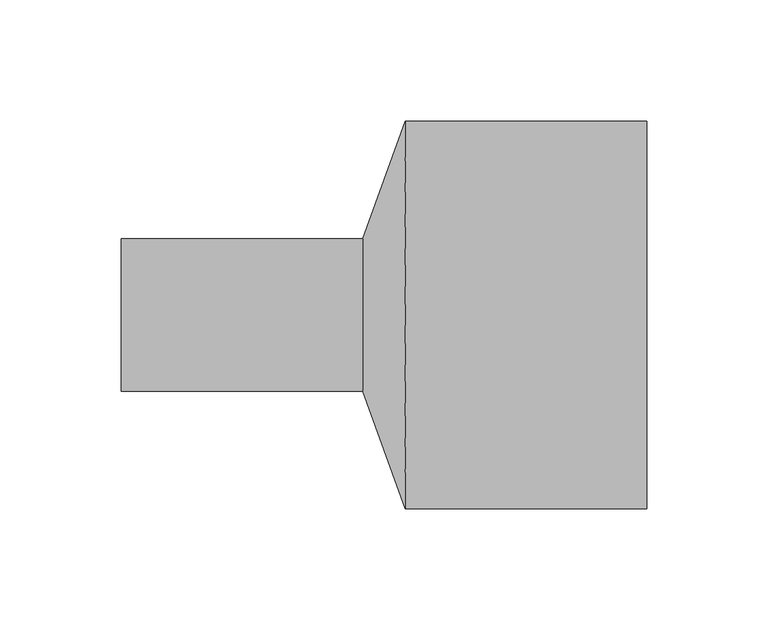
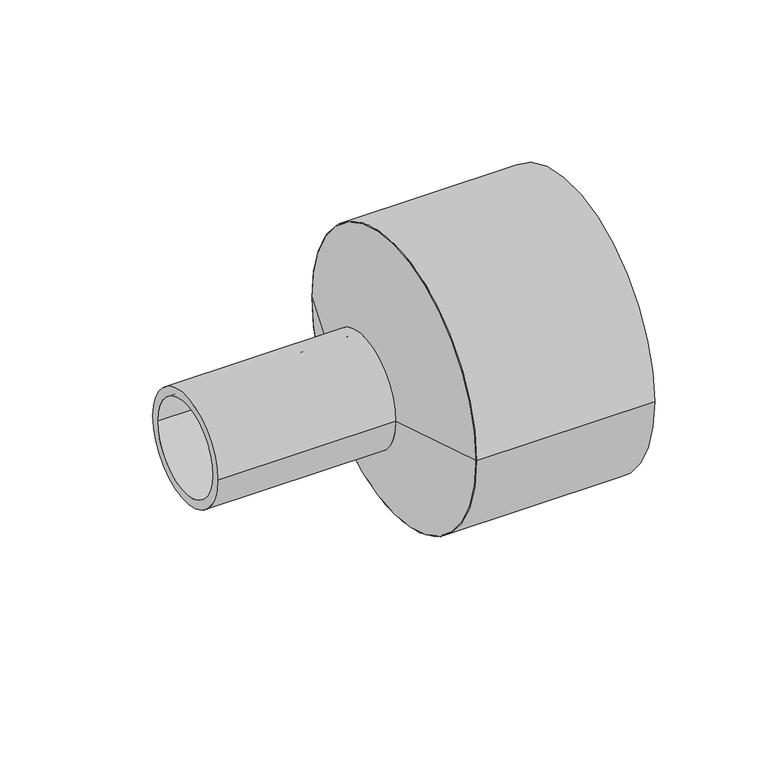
"""IFC4 building model written with IfcOpenShell, lengths in millimetres: pipe fitting geometry, EGB_VASEN_ PPR_Manguito reductor a tope WXRB110 : Manguito reductor a tope WXRB110."""

from ifc_helpers import new_model, si_unit, point, frame, origin, origin_2d, place, context, project, spatial, polyline, circle_curve, trimmed, segment, composite_curve, outline, extrude, source, transform, mapped, element, save
from ifc_brep_helpers import plane_surface, revolved_surface, advanced_brep


def pipe_fitting_a6c5a219(model_context):
    return source(origin(), model_context, "Body", "SolidModel", [
        extrude(outline(composite_curve([segment(trimmed(circle_curve(origin_2d(), 80.0), [point((-80.0, 0.0))], [point((80.0, 0.0))], False, "CARTESIAN"), True, "CONTINUOUS"), segment(trimmed(circle_curve(origin_2d(), 80.0), [point((80.0, 0.0))], [point((-80.0, 0.0))], False, "CARTESIAN"), True, "CONTINUOUS")], self_intersect=False), holes=[composite_curve([segment(trimmed(circle_curve(origin_2d(), 75.0), [point((-75.0, 0.0))], [point((75.0, 0.0))], True, "CARTESIAN"), True, "CONTINUOUS"), segment(trimmed(circle_curve(origin_2d(), 75.0), [point((75.0, 0.0))], [point((-75.0, 0.0))], True, "CARTESIAN"), True, "CONTINUOUS")], self_intersect=False)]), frame((8.68, 0.0, 0.0), z_axis=(1.0, 0.0, 0.0), x_axis=(0.0, 1.0, 0.0)), (0.0, 0.0, 1.0), 99.82),
        extrude(outline(composite_curve([segment(trimmed(circle_curve(origin_2d(), 31.5), [point((-31.5, 0.0))], [point((31.5, 0.0))], False, "CARTESIAN"), True, "CONTINUOUS"), segment(trimmed(circle_curve(origin_2d(), 31.5), [point((31.5, 0.0))], [point((-31.5, 0.0))], False, "CARTESIAN"), True, "CONTINUOUS")], self_intersect=False), holes=[composite_curve([segment(trimmed(circle_curve(origin_2d(), 26.5), [point((-26.5, 0.0))], [point((26.5, 0.0))], True, "CARTESIAN"), True, "CONTINUOUS"), segment(trimmed(circle_curve(origin_2d(), 26.5), [point((26.5, 0.0))], [point((-26.5, 0.0))], True, "CARTESIAN"), True, "CONTINUOUS")], self_intersect=False)]), frame((-108.5, 0.0, 0.0), z_axis=(1.0, 0.0, 0.0), x_axis=(0.0, 1.0, 0.0)), (0.0, 0.0, 1.0), 99.82),
        advanced_brep(
        [(8.68, -80.0, 0.0), (8.68, 80.0, 0.0), (-8.68, -31.5, 0.0), (-8.68, 31.5, 0.0)],
        [
            (0, 1, circle_curve(frame((8.68, 0.0, 0.0), z_axis=(1.0, 0.0, 0.0), x_axis=(0.0, -1.0, 0.0)), 80.0)),
            (1, 0, circle_curve(frame((8.68, 0.0, 0.0), z_axis=(1.0, 0.0, 0.0), x_axis=(0.0, 1.0, 0.0)), 80.0)),
            (2, 3, circle_curve(frame((-8.68, 0.0, 0.0), z_axis=(-1.0, 0.0, 0.0), x_axis=(0.0, 1.0, 0.0)), 31.5)),
            (3, 2, circle_curve(frame((-8.68, 0.0, 0.0), z_axis=(-1.0, 0.0, 0.0), x_axis=(0.0, -1.0, 0.0)), 31.5)),
            (3, 1),
            (0, 2),
        ],
        [
            plane_surface(frame((8.68, 0.0, 0.0), z_axis=(1.0, 0.0, 0.0), x_axis=(0.0, 0.0, -1.0))),
            plane_surface(frame((-8.68, 0.0, 0.0), z_axis=(-1.0, 0.0, 0.0), x_axis=(0.0, 0.0, -1.0))),
            revolved_surface(polyline([(-8.68, 31.499999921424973, 0.0), (8.68, 80.0, 0.0)]), (-19.9550515, 0.0, 0.0), (1.0, 0.0, 0.0)),
            revolved_surface(polyline([(-8.68, -31.499999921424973, 0.0), (8.68, -80.0, 0.0)]), (-19.9550515, 0.0, 0.0), (1.0, 0.0, 0.0)),
        ],
        [
            (0, [[1, 2]]),
            (1, [[3, 4]]),
            (2, [[-4, 5, -1, 6]]),
            (3, [[-3, -6, -2, -5]]),
        ],
    ),
    ])


if __name__ == "__main__":
    model = new_model("IFC4")
    model_context = context("Model", 3, world=origin())
    ifc_project = project(units=[si_unit("LENGTHUNIT", "METRE", prefix="MILLI")], contexts=[model_context])
    site = spatial("IfcSite", under=ifc_project)
    building = spatial("IfcBuilding", under=site)
    placement = place(None, origin())
    pipe_fitting_shape = pipe_fitting_a6c5a219(model_context)
    element("IfcPipeFitting", 1, ObjectType="EGB_VASEN_ PPR_Manguito reductor a tope WXRB110 : Manguito reductor a tope WXRB110", at=placement, inside=building, context=model_context, shape_type="MappedRepresentation", body=[
        mapped(pipe_fitting_shape, transform((0.0, 0.0, 0.0), x_axis=(1.0, 0.0, 0.0), y_axis=(0.0, 1.0, 0.0), z_axis=(0.0, 0.0, 1.0))),
    ])
    save(model, "model.ifc")
